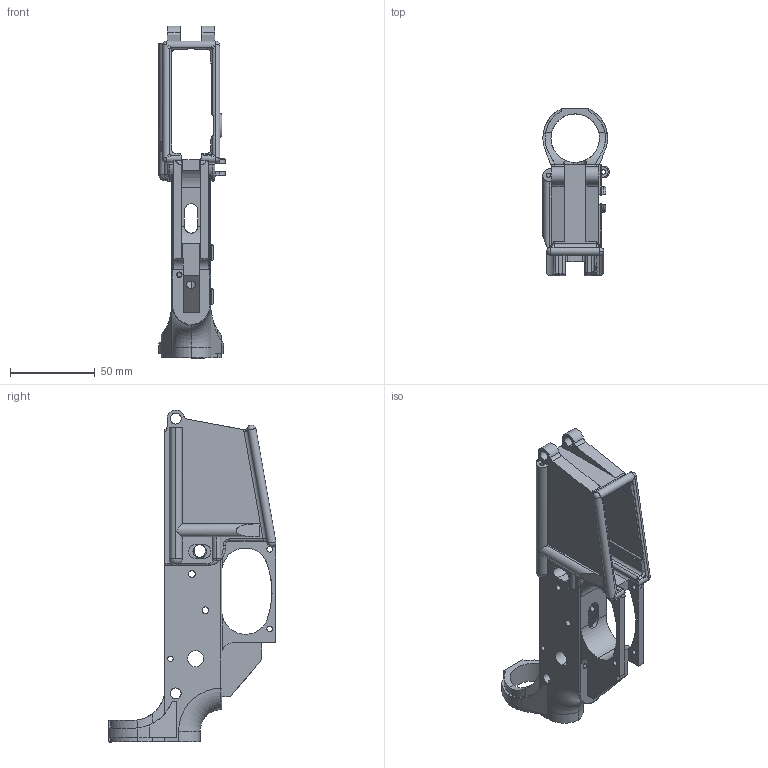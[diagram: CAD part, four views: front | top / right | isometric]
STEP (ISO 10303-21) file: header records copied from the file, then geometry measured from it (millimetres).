
FILE_DESCRIPTION (( 'STEP AP214' ), '1' );
FILE_NAME ('Assem1.STEP', '2012-12-26T02:58:06', ( 'Mjolnir' ), ( '' ), 'SwSTEP 2.0', 'SolidWorks 2012', '' );
FILE_SCHEMA (( 'AUTOMOTIVE_DESIGN' ));
Length unit declared in the file: millimetre
Products named in the file (1): Assem1
Bounding box: 39.05 x 98.98 x 195.65 mm (x, y, z)
Volume: 90860 mm3; surface area: 53768.2 mm2
Topology: 1 solids, 1 shells, 451 faces, 1294 edges, 827 vertices
Faces by surface type: cylinder 202, plane 187, bspline 28, torus 25, sphere 7, cone 2
Entity records: 21444 total; most frequent: CARTESIAN_POINT 4728, ORIENTED_EDGE 2564, DIRECTION 2384, EDGE_CURVE 1282, AXIS2_PLACEMENT_3D 848, VERTEX_POINT 825, LINE 688, VECTOR 688
